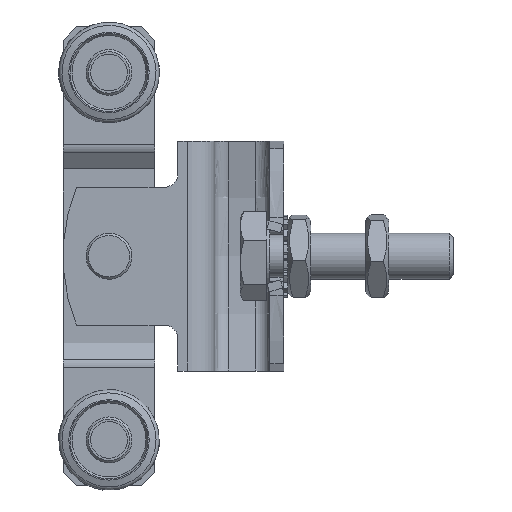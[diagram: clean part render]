
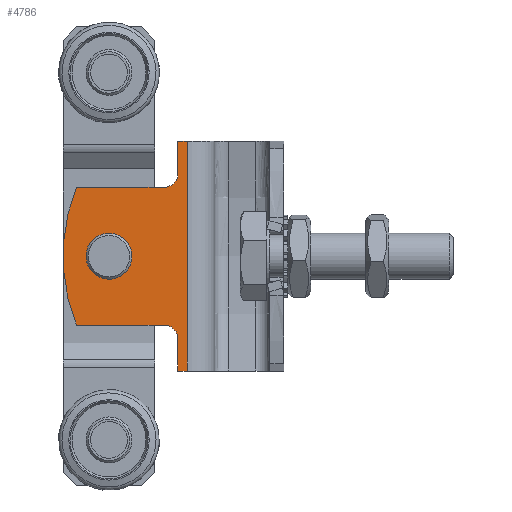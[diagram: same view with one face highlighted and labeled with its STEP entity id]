
A CAD part, left-side view. The second image highlights one B-rep face of the part: STEP entity #4786.
In plain terms, the highlighted planar face has unit normal (-1, 0, 0).
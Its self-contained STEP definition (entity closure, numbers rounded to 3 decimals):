
#203=FACE_BOUND('',#716,.T.);
#415=FACE_OUTER_BOUND('',#715,.T.);
#715=EDGE_LOOP('',(#3449,#3450,#3451,#3452,#3453,#3454,#3455,#3456,#3457,
#3458));
#716=EDGE_LOOP('',(#3459));
#1086=LINE('',#7369,#1486);
#1091=LINE('',#7383,#1491);
#1095=LINE('',#7395,#1495);
#1099=LINE('',#7407,#1499);
#1104=LINE('',#7416,#1504);
#1105=LINE('',#7419,#1505);
#1106=LINE('',#7420,#1506);
#1486=VECTOR('',#5844,7.);
#1491=VECTOR('',#5857,19.081);
#1495=VECTOR('',#5869,19.081);
#1499=VECTOR('',#5881,7.);
#1504=VECTOR('',#5888,2.);
#1505=VECTOR('',#5891,50.);
#1506=VECTOR('',#5892,2.);
#1817=CIRCLE('',#5104,3.05);
#1818=CIRCLE('',#5107,3.);
#1820=CIRCLE('',#5111,40.);
#1822=CIRCLE('',#5115,3.);
#2105=VERTEX_POINT('',#7364);
#2106=VERTEX_POINT('',#7367);
#2107=VERTEX_POINT('',#7368);
#2110=VERTEX_POINT('',#7376);
#2112=VERTEX_POINT('',#7382);
#2114=VERTEX_POINT('',#7388);
#2116=VERTEX_POINT('',#7394);
#2118=VERTEX_POINT('',#7400);
#2120=VERTEX_POINT('',#7406);
#2123=VERTEX_POINT('',#7414);
#2124=VERTEX_POINT('',#7418);
#2610=EDGE_CURVE('',#2105,#2105,#1817,.T.);
#2611=EDGE_CURVE('',#2106,#2107,#1086,.T.);
#2615=EDGE_CURVE('',#2107,#2110,#1818,.T.);
#2618=EDGE_CURVE('',#2110,#2112,#1091,.T.);
#2621=EDGE_CURVE('',#2112,#2114,#1820,.T.);
#2624=EDGE_CURVE('',#2114,#2116,#1095,.T.);
#2627=EDGE_CURVE('',#2116,#2118,#1822,.T.);
#2630=EDGE_CURVE('',#2118,#2120,#1099,.T.);
#2635=EDGE_CURVE('',#2123,#2120,#1104,.T.);
#2636=EDGE_CURVE('',#2123,#2124,#1105,.T.);
#2637=EDGE_CURVE('',#2106,#2124,#1106,.T.);
#3449=ORIENTED_EDGE('',*,*,#2611,.T.);
#3450=ORIENTED_EDGE('',*,*,#2615,.T.);
#3451=ORIENTED_EDGE('',*,*,#2618,.T.);
#3452=ORIENTED_EDGE('',*,*,#2621,.T.);
#3453=ORIENTED_EDGE('',*,*,#2624,.T.);
#3454=ORIENTED_EDGE('',*,*,#2627,.T.);
#3455=ORIENTED_EDGE('',*,*,#2630,.T.);
#3456=ORIENTED_EDGE('',*,*,#2635,.F.);
#3457=ORIENTED_EDGE('',*,*,#2636,.T.);
#3458=ORIENTED_EDGE('',*,*,#2637,.F.);
#3459=ORIENTED_EDGE('',*,*,#2610,.T.);
#4616=PLANE('',#5119);
#4786=ADVANCED_FACE('',(#415,#203),#4616,.F.);
#5104=AXIS2_PLACEMENT_3D('',#7365,#5840,#5841);
#5107=AXIS2_PLACEMENT_3D('',#7377,#5850,#5851);
#5111=AXIS2_PLACEMENT_3D('',#7389,#5862,#5863);
#5115=AXIS2_PLACEMENT_3D('',#7401,#5874,#5875);
#5119=AXIS2_PLACEMENT_3D('',#7417,#5889,#5890);
#5840=DIRECTION('center_axis',(1.,0.,0.));
#5841=DIRECTION('ref_axis',(0.,-1.,0.));
#5844=DIRECTION('',(0.,1.,0.));
#5850=DIRECTION('center_axis',(1.,0.,0.));
#5851=DIRECTION('ref_axis',(0.,0.,-1.));
#5857=DIRECTION('',(0.,0.,1.));
#5862=DIRECTION('center_axis',(-1.,0.,0.));
#5863=DIRECTION('ref_axis',(0.,0.375,-0.927));
#5869=DIRECTION('',(0.,0.,-1.));
#5874=DIRECTION('center_axis',(1.,0.,0.));
#5875=DIRECTION('ref_axis',(0.,-1.,0.));
#5881=DIRECTION('',(0.,1.,0.));
#5888=DIRECTION('',(0.,0.,1.));
#5889=DIRECTION('center_axis',(1.,0.,0.));
#5890=DIRECTION('ref_axis',(0.,0.,
-1.));
#5891=DIRECTION('',(0.,-1.,0.));
#5892=DIRECTION('',(0.,0.,-1.));
#7364=CARTESIAN_POINT('',(-1.5,3.05,38.));
#7365=CARTESIAN_POINT('Origin',(-1.5,0.,38.));
#7367=CARTESIAN_POINT('',(-1.5,-25.,23.));
#7368=CARTESIAN_POINT('',(-1.5,-18.,23.));
#7369=CARTESIAN_POINT('',(-1.5,-12.5,23.));
#7376=CARTESIAN_POINT('',(-1.5,-15.,26.));
#7377=CARTESIAN_POINT('Origin',(-1.5,-18.,26.));
#7382=CARTESIAN_POINT('',(-1.5,-15.,45.081));
#7383=CARTESIAN_POINT('',(-1.5,-15.,28.554));
#7388=CARTESIAN_POINT('',(-1.5,15.,45.081));
#7389=CARTESIAN_POINT('Origin',(-1.5,0.,8.));
#7394=CARTESIAN_POINT('',(-1.5,15.,26.));
#7395=CARTESIAN_POINT('',(-1.5,15.,38.094));
#7400=CARTESIAN_POINT('',(-1.5,18.,23.));
#7401=CARTESIAN_POINT('Origin',(-1.5,18.,26.));
#7406=CARTESIAN_POINT('',(-1.5,25.,23.));
#7407=CARTESIAN_POINT('',(-1.5,9.,23.));
#7414=CARTESIAN_POINT('',(-1.5,25.,21.));
#7416=CARTESIAN_POINT('',(-1.5,25.,21.));
#7417=CARTESIAN_POINT('Origin',(-1.5,0.,
31.107));
#7418=CARTESIAN_POINT('',(-1.5,-25.,21.));
#7419=CARTESIAN_POINT('',(-1.5,0.,21.));
#7420=CARTESIAN_POINT('',(-1.5,-25.,7.428));
